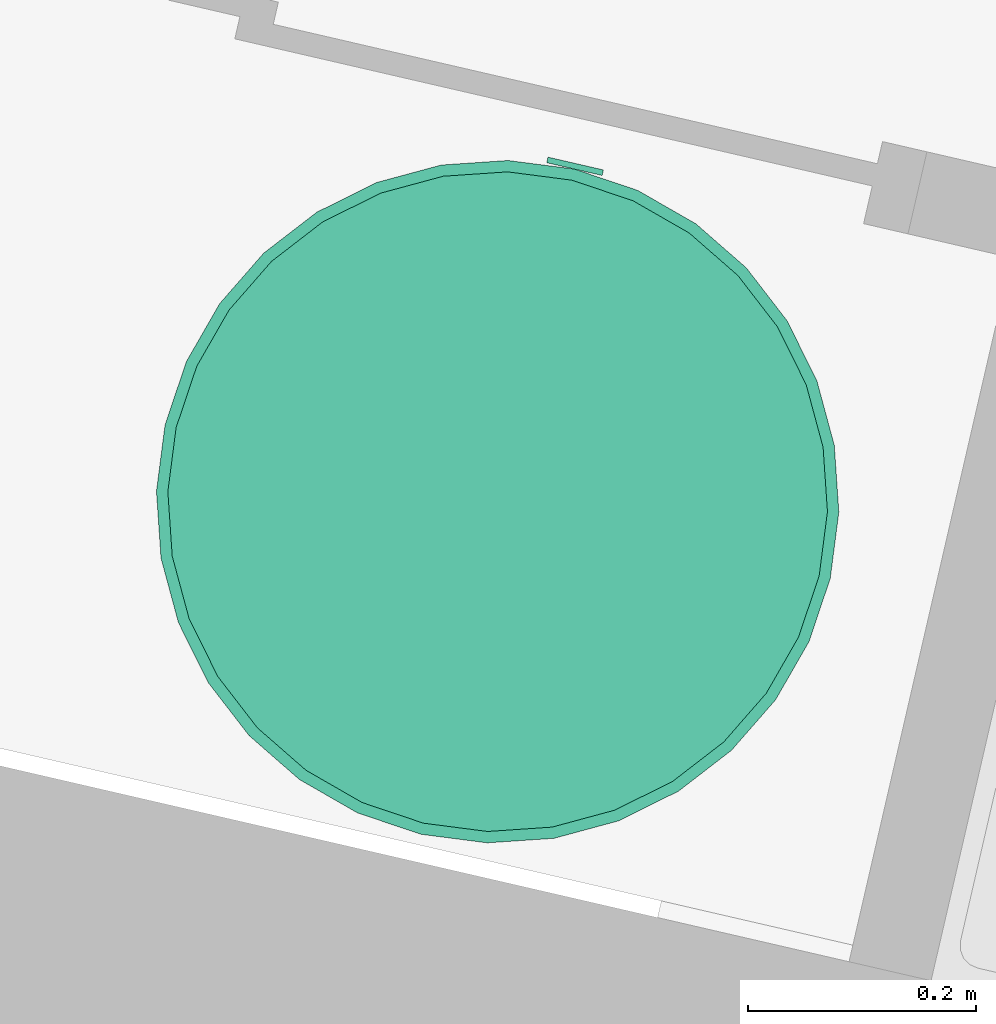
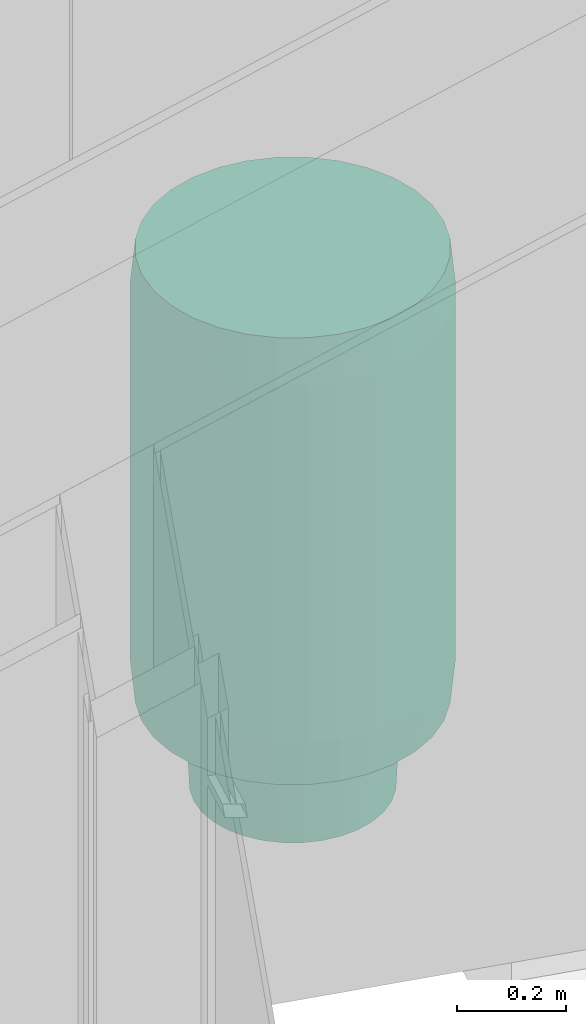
# One storey, part 98 of 119: 1 energy conversion device.
"""IFC2X3 building model written with IfcOpenShell, lengths in metres."""

from ifc_helpers import new_model, entity, si_unit, converted_unit, derived_unit, money_unit, direction, frame, origin_with_axes, place, context, subcontext, project, spatial, open_shell, faceted_brep, surface_model, source, transform, mapped, type_object, element, save


model = new_model("IFC2X3")

# Units and contexts
model_context = context("Model", 3, precision=1e-05, world=origin_with_axes(), true_north=direction((0.0, 1.0)))
body_context = subcontext(model_context, "Body", "Model", "MODEL_VIEW")
ifc_project = project(units=[si_unit("LENGTHUNIT", "METRE"), si_unit("AREAUNIT", "SQUARE_METRE"), si_unit("VOLUMEUNIT", "CUBIC_METRE"), converted_unit("PLANEANGLEUNIT", "DEGREE", entity("IfcPlaneAngleMeasure", 0.0174532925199), si_unit("PLANEANGLEUNIT", "RADIAN"), dimensions=[0, 0, 0, 0, 0, 0, 0]), si_unit("SOLIDANGLEUNIT", "STERADIAN"), money_unit("EUR"), converted_unit("TIMEUNIT", "Year", entity("IfcTimeMeasure", 31556926.0), si_unit("TIMEUNIT", "SECOND"), dimensions=[0, 0, 1, 0, 0, 0, 0]), si_unit("MASSUNIT", "GRAM", prefix="KILO"), si_unit("THERMODYNAMICTEMPERATUREUNIT", "DEGREE_CELSIUS"), si_unit("LUMINOUSINTENSITYUNIT", "LUMEN"), si_unit("ENERGYUNIT", "JOULE", prefix="MEGA"), derived_unit("THERMALCONDUCTANCEUNIT", [(si_unit("POWERUNIT", "WATT"), 1), (si_unit("LENGTHUNIT", "METRE"), -1), (si_unit("THERMODYNAMICTEMPERATUREUNIT", "KELVIN"), -1)]), derived_unit("SPECIFICHEATCAPACITYUNIT", [(si_unit("ENERGYUNIT", "JOULE"), 1), (si_unit("MASSUNIT", "GRAM", prefix="KILO"), -1), (si_unit("THERMODYNAMICTEMPERATUREUNIT", "KELVIN"), -1)]), derived_unit("MASSDENSITYUNIT", [(si_unit("MASSUNIT", "GRAM", prefix="KILO"), 1), (si_unit("VOLUMEUNIT", "CUBIC_METRE"), -1)])], contexts=[model_context])

# Site, building, storey
site_placement = place(None, origin_with_axes())
site = spatial("IfcSite", under=ifc_project, at=site_placement, Name="Site", CompositionType="ELEMENT")
building_placement = place(site_placement, origin_with_axes())
building = spatial("IfcBuilding", under=site, at=building_placement, Name="Bâtiment", CompositionType="ELEMENT")
storey_placement = place(building_placement, origin_with_axes())
storey = spatial("IfcBuildingStorey", under=building, at=storey_placement, Name="Rez-de-chaussée", CompositionType="ELEMENT", Elevation=0.0)

# Energy conversion device
heat_exchanger_type = type_object("IfcHeatExchangerType", Name="Chauffe-eau électrique 23", PredefinedType="SHELLANDTUBE")
shared_shape = source(origin_with_axes(), body_context, "Body", "SurfaceModel", [
    surface_model("IfcShellBasedSurfaceModel", [(-0.245, -0.0135, 0.2), (-0.245, -0.0135, 0.18), (-0.241505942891, -0.0130399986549, 0.18), (-0.241505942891, -0.0130399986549, 0.2), (-0.248494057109, -0.0130399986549, 0.2), (-0.248494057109, -0.0130399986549, 0.18), (-0.23825, -0.0116913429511, 0.18), (-0.23825, -0.0116913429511, 0.2), (-0.25175, -0.0116913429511, 0.2), (-0.25175, -0.0116913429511, 0.18), (-0.235454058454, -0.00954594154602, 0.18), (-0.235454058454, -0.00954594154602, 0.2), (-0.254545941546, -0.00954594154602, 0.2), (-0.254545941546, -0.00954594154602, 0.18), (-0.233308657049, -0.00675, 0.18), (-0.233308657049, -0.00675, 0.2), (-0.256691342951, -0.00675, 0.2), (-0.256691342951, -0.00675, 0.18), (-0.231960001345, -0.00349405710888, 0.18), (-0.231960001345, -0.00349405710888, 0.2), (-0.258039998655, -0.00349405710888, 0.2), (-0.258039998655, -0.00349405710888, 0.18), (-0.2315, 0.0, 0.18), (-0.2315, 0.0, 0.2), (-0.2585, 0.0, 0.2), (-0.2585, 0.0, 0.18), (-0.231960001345, 0.00349405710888, 0.18), (-0.231960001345, 0.00349405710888, 0.2), (-0.258039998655, 0.00349405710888, 0.2), (-0.258039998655, 0.00349405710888, 0.18), (-0.233308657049, 0.00675, 0.18), (-0.233308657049, 0.00675, 0.2), (-0.256691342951, 0.00675, 0.2), (-0.256691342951, 0.00675, 0.18), (-0.235454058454, 0.00954594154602, 0.18), (-0.235454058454, 0.00954594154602, 0.2), (-0.254545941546, 0.00954594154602, 0.2), (-0.254545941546, 0.00954594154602, 0.18), (-0.23825, 0.0116913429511, 0.18), (-0.23825, 0.0116913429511, 0.2), (-0.25175, 0.0116913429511, 0.2), (-0.25175, 0.0116913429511, 0.18), (-0.241505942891, 0.0130399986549, 0.18), (-0.241505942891, 0.0130399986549, 0.2), (-0.248494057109, 0.0130399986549, 0.2), (-0.248494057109, 0.0130399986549, 0.18), (-0.245, 0.0135, 0.18), (-0.245, 0.0135, 0.2)], [open_shell([[[0, 1, 2, 3]], [[4, 5, 1, 0]], [[3, 2, 6, 7]], [[8, 9, 5, 4]], [[7, 6, 10, 11]], [[12, 13, 9, 8]], [[11, 10, 14, 15]], [[16, 17, 13, 12]], [[15, 14, 18, 19]], [[20, 21, 17, 16]], [[19, 18, 22, 23]], [[24, 25, 21, 20]], [[23, 22, 26, 27]], [[28, 29, 25, 24]], [[27, 26, 30, 31]], [[32, 33, 29, 28]], [[31, 30, 34, 35]], [[36, 37, 33, 32]], [[35, 34, 38, 39]], [[40, 41, 37, 36]], [[39, 38, 42, 43]], [[44, 45, 41, 40]], [[43, 42, 46, 47]], [[47, 46, 45, 44]]])]),
    surface_model("IfcShellBasedSurfaceModel", [(0.245, -0.0135, 0.2), (0.245, -0.0135, 0.18), (0.248494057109, -0.0130399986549, 0.18), (0.248494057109, -0.0130399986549, 0.2), (0.241505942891, -0.0130399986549, 0.2), (0.241505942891, -0.0130399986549, 0.18), (0.25175, -0.0116913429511, 0.18), (0.25175, -0.0116913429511, 0.2), (0.23825, -0.0116913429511, 0.2), (0.23825, -0.0116913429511, 0.18), (0.254545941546, -0.00954594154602, 0.18), (0.254545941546, -0.00954594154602, 0.2), (0.235454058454, -0.00954594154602, 0.2), (0.235454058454, -0.00954594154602, 0.18), (0.256691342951, -0.00675, 0.18), (0.256691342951, -0.00675, 0.2), (0.233308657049, -0.00675, 0.2), (0.233308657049, -0.00675, 0.18), (0.258039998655, -0.00349405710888, 0.18), (0.258039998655, -0.00349405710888, 0.2), (0.231960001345, -0.00349405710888, 0.2), (0.231960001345, -0.00349405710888, 0.18), (0.2585, 0.0, 0.18), (0.2585, 0.0, 0.2), (0.2315, 0.0, 0.2), (0.2315, 0.0, 0.18), (0.258039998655, 0.00349405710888, 0.18), (0.258039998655, 0.00349405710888, 0.2), (0.231960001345, 0.00349405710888, 0.2), (0.231960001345, 0.00349405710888, 0.18), (0.256691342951, 0.00675, 0.18), (0.256691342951, 0.00675, 0.2), (0.233308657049, 0.00675, 0.2), (0.233308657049, 0.00675, 0.18), (0.254545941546, 0.00954594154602, 0.18), (0.254545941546, 0.00954594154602, 0.2), (0.235454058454, 0.00954594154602, 0.2), (0.235454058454, 0.00954594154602, 0.18), (0.25175, 0.0116913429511, 0.18), (0.25175, 0.0116913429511, 0.2), (0.23825, 0.0116913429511, 0.2), (0.23825, 0.0116913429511, 0.18), (0.248494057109, 0.0130399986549, 0.18), (0.248494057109, 0.0130399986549, 0.2), (0.241505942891, 0.0130399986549, 0.2), (0.241505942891, 0.0130399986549, 0.18), (0.245, 0.0135, 0.18), (0.245, 0.0135, 0.2)], [open_shell([[[0, 1, 2, 3]], [[4, 5, 1, 0]], [[3, 2, 6, 7]], [[8, 9, 5, 4]], [[7, 6, 10, 11]], [[12, 13, 9, 8]], [[11, 10, 14, 15]], [[16, 17, 13, 12]], [[15, 14, 18, 19]], [[20, 21, 17, 16]], [[19, 18, 22, 23]], [[24, 25, 21, 20]], [[23, 22, 26, 27]], [[28, 29, 25, 24]], [[27, 26, 30, 31]], [[32, 33, 29, 28]], [[31, 30, 34, 35]], [[36, 37, 33, 32]], [[35, 34, 38, 39]], [[40, 41, 37, 36]], [[39, 38, 42, 43]], [[44, 45, 41, 40]], [[43, 42, 46, 47]], [[47, 46, 45, 44]]])]),
    faceted_brep([(-0.025, -0.305, 0.4), (-0.025, -0.3, 0.4), (0.025, -0.3, 0.4), (0.025, -0.305, 0.4), (-0.025, -0.305, 0.42), (-0.025, -0.3, 0.42), (0.025, -0.3, 0.42), (0.025, -0.305, 0.42)], [[[0, 1, 2, 3]], [[0, 4, 5, 1]], [[1, 5, 6, 2]], [[2, 6, 7, 3]], [[3, 7, 4, 0]], [[7, 6, 5, 4]]]),
    faceted_brep([(0.0222836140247, -0.16, 0.088519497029), (0.02, -0.16, 0.1), (0.0222836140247, -0.16, 0.111480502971), (0.0287867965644, -0.16, 0.121213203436), (0.038519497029, -0.16, 0.127716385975), (0.05, -0.16, 0.13), (0.061480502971, -0.16, 0.127716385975), (0.0712132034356, -0.16, 0.121213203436), (0.0777163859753, -0.16, 0.111480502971), (0.08, -0.16, 0.1), (0.0777163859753, -0.16, 0.088519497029), (0.0712132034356, -0.16, 0.0787867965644), (0.061480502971, -0.16, 0.0722836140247), (0.05, -0.16, 0.07), (0.038519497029, -0.16, 0.0722836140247), (0.0287867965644, -0.16, 0.0787867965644), (0.0222836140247, -0.175, 0.088519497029), (0.02, -0.175, 0.1), (0.0222836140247, -0.175, 0.111480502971), (0.0287867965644, -0.175, 0.121213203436), (0.038519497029, -0.175, 0.127716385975), (0.05, -0.175, 0.13), (0.061480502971, -0.175, 0.127716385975), (0.0712132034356, -0.175, 0.121213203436), (0.0777163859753, -0.175, 0.111480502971), (0.08, -0.175, 0.1), (0.0777163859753, -0.175, 0.088519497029), (0.0712132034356, -0.175, 0.0787867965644), (0.061480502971, -0.175, 0.0722836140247), (0.05, -0.175, 0.07), (0.038519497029, -0.175, 0.0722836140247), (0.0287867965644, -0.175, 0.0787867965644)], [[[0, 1, 2, 3, 4, 5, 6, 7, 8, 9, 10, 11, 12, 13, 14, 15]], [[0, 16, 17, 1]], [[1, 17, 18, 2]], [[2, 18, 19, 3]], [[3, 19, 20, 4]], [[4, 20, 21, 5]], [[5, 21, 22, 6]], [[6, 22, 23, 7]], [[7, 23, 24, 8]], [[8, 24, 25, 9]], [[9, 25, 26, 10]], [[10, 26, 27, 11]], [[11, 27, 28, 12]], [[12, 28, 29, 13]], [[13, 29, 30, 14]], [[14, 30, 31, 15]], [[15, 31, 16, 0]], [[16, 31, 30, 29, 28, 27, 26, 25, 24, 23, 22, 21, 20, 19, 18, 17]]]),
    faceted_brep([(-0.0777163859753, -0.16, 0.088519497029), (-0.08, -0.16, 0.1), (-0.0777163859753, -0.16, 0.111480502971), (-0.0712132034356, -0.16, 0.121213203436), (-0.061480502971, -0.16, 0.127716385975), (-0.05, -0.16, 0.13), (-0.038519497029, -0.16, 0.127716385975), (-0.0287867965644, -0.16, 0.121213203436), (-0.0222836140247, -0.16, 0.111480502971), (-0.02, -0.16, 0.1), (-0.0222836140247, -0.16, 0.088519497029), (-0.0287867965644, -0.16, 0.0787867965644), (-0.038519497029, -0.16, 0.0722836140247), (-0.05, -0.16, 0.07), (-0.061480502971, -0.16, 0.0722836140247), (-0.0712132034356, -0.16, 0.0787867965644), (-0.0777163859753, -0.175, 0.088519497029), (-0.08, -0.175, 0.1), (-0.0777163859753, -0.175, 0.111480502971), (-0.0712132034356, -0.175, 0.121213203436), (-0.061480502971, -0.175, 0.127716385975), (-0.05, -0.175, 0.13), (-0.038519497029, -0.175, 0.127716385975), (-0.0287867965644, -0.175, 0.121213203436), (-0.0222836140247, -0.175, 0.111480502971), (-0.02, -0.175, 0.1), (-0.0222836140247, -0.175, 0.088519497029), (-0.0287867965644, -0.175, 0.0787867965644), (-0.038519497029, -0.175, 0.0722836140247), (-0.05, -0.175, 0.07), (-0.061480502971, -0.175, 0.0722836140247), (-0.0712132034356, -0.175, 0.0787867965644)], [[[0, 1, 2, 3, 4, 5, 6, 7, 8, 9, 10, 11, 12, 13, 14, 15]], [[0, 16, 17, 1]], [[1, 17, 18, 2]], [[2, 18, 19, 3]], [[3, 19, 20, 4]], [[4, 20, 21, 5]], [[5, 21, 22, 6]], [[6, 22, 23, 7]], [[7, 23, 24, 8]], [[8, 24, 25, 9]], [[9, 25, 26, 10]], [[10, 26, 27, 11]], [[11, 27, 28, 12]], [[12, 28, 29, 13]], [[13, 29, 30, 14]], [[14, 30, 31, 15]], [[15, 31, 16, 0]], [[16, 31, 30, 29, 28, 27, 26, 25, 24, 23, 22, 21, 20, 19, 18, 17]]]),
    faceted_brep([(-0.186349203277, -0.0370671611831, 0.0), (-0.196157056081, -0.0390180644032, 0.2), (-0.2, 0.0, 0.2), (-0.19, 0.0, 0.0), (-0.175537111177, -0.0727098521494, 0.0), (-0.184775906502, -0.076536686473, 0.2), (-0.166293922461, -0.111114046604, 0.2), (-0.141421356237, -0.141421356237, 0.2), (-0.118783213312, -0.16, 0.2), (0.118783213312, -0.16, 0.2), (0.141421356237, -0.141421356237, 0.2), (0.166293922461, -0.111114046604, 0.2), (0.184775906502, -0.076536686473, 0.2), (0.196157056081, -0.0390180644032, 0.2), (0.2, 0.0, 0.2), (0.196157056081, 0.0390180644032, 0.2), (0.184775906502, 0.076536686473, 0.2), (0.166293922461, 0.111114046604, 0.2), (0.141421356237, 0.141421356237, 0.2), (0.111114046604, 0.166293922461, 0.2), (0.076536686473, 0.184775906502, 0.2), (0.0390180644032, 0.196157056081, 0.2), (0.0, 0.2, 0.2), (-0.0390180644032, 0.196157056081, 0.2), (-0.076536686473, 0.184775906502, 0.2), (-0.111114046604, 0.166293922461, 0.2), (-0.141421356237, 0.141421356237, 0.2), (-0.166293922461, 0.111114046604, 0.2), (-0.184775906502, 0.076536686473, 0.2), (-0.196157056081, 0.0390180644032, 0.2), (-0.186349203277, 0.0370671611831, 0.0), (-0.175537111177, 0.0727098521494, 0.0), (-0.157979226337, 0.105558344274, 0.0), (-0.134350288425, 0.134350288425, 0.0), (-0.105558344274, 0.157979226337, 0.0), (-0.0727098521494, 0.175537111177, 0.0), (-0.0370671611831, 0.186349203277, 0.0), (0.0, 0.19, 0.0), (0.0370671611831, 0.186349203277, 0.0), (0.0727098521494, 0.175537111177, 0.0), (0.105558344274, 0.157979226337, 0.0), (0.134350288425, 0.134350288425, 0.0), (0.157979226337, 0.105558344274, 0.0), (0.175537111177, 0.0727098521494, 0.0), (0.186349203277, 0.0370671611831, 0.0), (0.19, 0.0, 0.0), (0.186349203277, -0.0370671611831, 0.0), (0.175537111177, -0.0727098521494, 0.0), (0.157979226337, -0.105558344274, 0.0), (0.134350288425, -0.134350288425, 0.0), (0.105558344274, -0.157979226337, 0.0), (0.101777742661, -0.16, 0.0), (-0.101777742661, -0.16, 0.0), (-0.105558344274, -0.157979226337, 0.0), (-0.134350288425, -0.134350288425, 0.0), (-0.157979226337, -0.105558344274, 0.0), (-0.106908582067, -0.16, 0.0486072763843), (0.106908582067, -0.16, 0.0486072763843)], [[[0, 1, 2, 3]], [[4, 5, 1, 0]], [[1, 5, 6, 7, 8, 9, 10, 11, 12, 13, 14, 15, 16, 17, 18, 19, 20, 21, 22, 23, 24, 25, 26, 27, 28, 29, 2]], [[3, 2, 29, 30]], [[0, 3, 30, 31, 32, 33, 34, 35, 36, 37, 38, 39, 40, 41, 42, 43, 44, 45, 46, 47, 48, 49, 50, 51, 52, 53, 54, 55, 4]], [[55, 6, 5, 4]], [[54, 7, 6, 55]], [[53, 56, 8, 7, 54]], [[51, 57, 9, 8, 56, 52]], [[49, 10, 9, 57, 50]], [[48, 11, 10, 49]], [[47, 12, 11, 48]], [[46, 13, 12, 47]], [[45, 14, 13, 46]], [[44, 15, 14, 45]], [[43, 16, 15, 44]], [[42, 17, 16, 43]], [[41, 18, 17, 42]], [[40, 19, 18, 41]], [[39, 20, 19, 40]], [[38, 21, 20, 39]], [[37, 22, 21, 38]], [[36, 23, 22, 37]], [[35, 24, 23, 36]], [[34, 25, 24, 35]], [[33, 26, 25, 34]], [[32, 27, 26, 33]], [[31, 28, 27, 32]], [[30, 29, 28, 31]], [[50, 57, 51]], [[52, 56, 53]]]),
    faceted_brep([(-0.284427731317, -0.0565761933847, 0.2), (-0.294235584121, -0.0585270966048, 0.3), (-0.3, 0.0, 0.3), (-0.29, 0.0, 0.2), (-0.267925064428, -0.110978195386, 0.2), (-0.277163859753, -0.11480502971, 0.3), (-0.249440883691, -0.166671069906, 0.3), (-0.212132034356, -0.212132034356, 0.3), (-0.166671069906, -0.249440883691, 0.3), (-0.11480502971, -0.277163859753, 0.3), (-0.0585270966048, -0.294235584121, 0.3), (0.0, -0.3, 0.3), (0.0585270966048, -0.294235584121, 0.3), (0.11480502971, -0.277163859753, 0.3), (0.166671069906, -0.249440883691, 0.3), (0.212132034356, -0.212132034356, 0.3), (0.249440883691, -0.166671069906, 0.3), (0.277163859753, -0.11480502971, 0.3), (0.294235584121, -0.0585270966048, 0.3), (0.3, 0.0, 0.3), (0.294235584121, 0.0585270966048, 0.3), (0.277163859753, 0.11480502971, 0.3), (0.249440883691, 0.166671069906, 0.3), (0.212132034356, 0.212132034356, 0.3), (0.166671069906, 0.249440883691, 0.3), (0.11480502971, 0.277163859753, 0.3), (0.0585270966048, 0.294235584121, 0.3), (0.0, 0.3, 0.3), (-0.0585270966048, 0.294235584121, 0.3), (-0.11480502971, 0.277163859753, 0.3), (-0.166671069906, 0.249440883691, 0.3), (-0.212132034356, 0.212132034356, 0.3), (-0.249440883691, 0.166671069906, 0.3), (-0.277163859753, 0.11480502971, 0.3), (-0.294235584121, 0.0585270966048, 0.3), (-0.284427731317, 0.0565761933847, 0.2), (-0.267925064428, 0.110978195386, 0.2), (-0.241126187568, 0.161115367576, 0.2), (-0.205060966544, 0.205060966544, 0.2), (-0.161115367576, 0.241126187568, 0.2), (-0.110978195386, 0.267925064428, 0.2), (-0.0565761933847, 0.284427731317, 0.2), (0.0, 0.29, 0.2), (0.0565761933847, 0.284427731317, 0.2), (0.110978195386, 0.267925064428, 0.2), (0.161115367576, 0.241126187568, 0.2), (0.205060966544, 0.205060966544, 0.2), (0.241126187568, 0.161115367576, 0.2), (0.267925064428, 0.110978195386, 0.2), (0.284427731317, 0.0565761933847, 0.2), (0.29, 0.0, 0.2), (0.284427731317, -0.0565761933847, 0.2), (0.267925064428, -0.110978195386, 0.2), (0.241126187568, -0.161115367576, 0.2), (0.205060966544, -0.205060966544, 0.2), (0.161115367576, -0.241126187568, 0.2), (0.110978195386, -0.267925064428, 0.2), (0.0565761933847, -0.284427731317, 0.2), (0.0, -0.29, 0.2), (-0.0565761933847, -0.284427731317, 0.2), (-0.110978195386, -0.267925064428, 0.2), (-0.161115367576, -0.241126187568, 0.2), (-0.205060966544, -0.205060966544, 0.2), (-0.241126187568, -0.161115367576, 0.2)], [[[0, 1, 2, 3]], [[4, 5, 1, 0]], [[1, 5, 6, 7, 8, 9, 10, 11, 12, 13, 14, 15, 16, 17, 18, 19, 20, 21, 22, 23, 24, 25, 26, 27, 28, 29, 30, 31, 32, 33, 34, 2]], [[3, 2, 34, 35]], [[0, 3, 35, 36, 37, 38, 39, 40, 41, 42, 43, 44, 45, 46, 47, 48, 49, 50, 51, 52, 53, 54, 55, 56, 57, 58, 59, 60, 61, 62, 63, 4]], [[63, 6, 5, 4]], [[62, 7, 6, 63]], [[61, 8, 7, 62]], [[60, 9, 8, 61]], [[59, 10, 9, 60]], [[58, 11, 10, 59]], [[57, 12, 11, 58]], [[56, 13, 12, 57]], [[55, 14, 13, 56]], [[54, 15, 14, 55]], [[53, 16, 15, 54]], [[52, 17, 16, 53]], [[51, 18, 17, 52]], [[50, 19, 18, 51]], [[49, 20, 19, 50]], [[48, 21, 20, 49]], [[47, 22, 21, 48]], [[46, 23, 22, 47]], [[45, 24, 23, 46]], [[44, 25, 24, 45]], [[43, 26, 25, 44]], [[42, 27, 26, 43]], [[41, 28, 27, 42]], [[40, 29, 28, 41]], [[39, 30, 29, 40]], [[38, 31, 30, 39]], [[37, 32, 31, 38]], [[36, 33, 32, 37]], [[35, 34, 33, 36]]]),
    faceted_brep([(-0.294235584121, -0.0585270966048, 0.3), (-0.3, 0.0, 0.3), (-0.294235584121, 0.0585270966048, 0.3), (-0.277163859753, 0.11480502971, 0.3), (-0.249440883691, 0.166671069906, 0.3), (-0.212132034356, 0.212132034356, 0.3), (-0.166671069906, 0.249440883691, 0.3), (-0.11480502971, 0.277163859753, 0.3), (-0.0585270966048, 0.294235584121, 0.3), (0.0, 0.3, 0.3), (0.0585270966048, 0.294235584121, 0.3), (0.11480502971, 0.277163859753, 0.3), (0.166671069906, 0.249440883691, 0.3), (0.212132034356, 0.212132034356, 0.3), (0.249440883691, 0.166671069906, 0.3), (0.277163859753, 0.11480502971, 0.3), (0.294235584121, 0.0585270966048, 0.3), (0.3, 0.0, 0.3), (0.294235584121, -0.0585270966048, 0.3), (0.277163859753, -0.11480502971, 0.3), (0.249440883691, -0.166671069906, 0.3), (0.212132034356, -0.212132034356, 0.3), (0.166671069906, -0.249440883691, 0.3), (0.11480502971, -0.277163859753, 0.3), (0.0585270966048, -0.294235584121, 0.3), (0.0, -0.3, 0.3), (-0.0585270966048, -0.294235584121, 0.3), (-0.11480502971, -0.277163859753, 0.3), (-0.166671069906, -0.249440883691, 0.3), (-0.212132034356, -0.212132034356, 0.3), (-0.249440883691, -0.166671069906, 0.3), (-0.277163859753, -0.11480502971, 0.3), (-0.294235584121, -0.0585270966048, 1.1), (-0.3, 0.0, 1.1), (-0.294235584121, 0.0585270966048, 1.1), (-0.277163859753, 0.11480502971, 1.1), (-0.249440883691, 0.166671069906, 1.1), (-0.212132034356, 0.212132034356, 1.1), (-0.166671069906, 0.249440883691, 1.1), (-0.11480502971, 0.277163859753, 1.1), (-0.0585270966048, 0.294235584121, 1.1), (0.0, 0.3, 1.1), (0.0585270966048, 0.294235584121, 1.1), (0.11480502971, 0.277163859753, 1.1), (0.166671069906, 0.249440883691, 1.1), (0.212132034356, 0.212132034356, 1.1), (0.249440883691, 0.166671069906, 1.1), (0.277163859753, 0.11480502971, 1.1), (0.294235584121, 0.0585270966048, 1.1), (0.3, 0.0, 1.1), (0.294235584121, -0.0585270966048, 1.1), (0.277163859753, -0.11480502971, 1.1), (0.249440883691, -0.166671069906, 1.1), (0.212132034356, -0.212132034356, 1.1), (0.166671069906, -0.249440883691, 1.1), (0.11480502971, -0.277163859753, 1.1), (0.0585270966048, -0.294235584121, 1.1), (0.0, -0.3, 1.1), (-0.0585270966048, -0.294235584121, 1.1), (-0.11480502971, -0.277163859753, 1.1), (-0.166671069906, -0.249440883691, 1.1), (-0.212132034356, -0.212132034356, 1.1), (-0.249440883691, -0.166671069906, 1.1), (-0.277163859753, -0.11480502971, 1.1)], [[[0, 1, 2, 3, 4, 5, 6, 7, 8, 9, 10, 11, 12, 13, 14, 15, 16, 17, 18, 19, 20, 21, 22, 23, 24, 25, 26, 27, 28, 29, 30, 31]], [[0, 32, 33, 1]], [[1, 33, 34, 2]], [[2, 34, 35, 3]], [[3, 35, 36, 4]], [[4, 36, 37, 5]], [[5, 37, 38, 6]], [[6, 38, 39, 7]], [[7, 39, 40, 8]], [[8, 40, 41, 9]], [[9, 41, 42, 10]], [[10, 42, 43, 11]], [[11, 43, 44, 12]], [[12, 44, 45, 13]], [[13, 45, 46, 14]], [[14, 46, 47, 15]], [[15, 47, 48, 16]], [[16, 48, 49, 17]], [[17, 49, 50, 18]], [[18, 50, 51, 19]], [[19, 51, 52, 20]], [[20, 52, 53, 21]], [[21, 53, 54, 22]], [[22, 54, 55, 23]], [[23, 55, 56, 24]], [[24, 56, 57, 25]], [[25, 57, 58, 26]], [[26, 58, 59, 27]], [[27, 59, 60, 28]], [[28, 60, 61, 29]], [[29, 61, 62, 30]], [[30, 62, 63, 31]], [[31, 63, 32, 0]], [[32, 63, 62, 61, 60, 59, 58, 57, 56, 55, 54, 53, 52, 51, 50, 49, 48, 47, 46, 45, 44, 43, 42, 41, 40, 39, 38, 37, 36, 35, 34, 33]]]),
    faceted_brep([(-0.294235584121, -0.0585270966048, 1.1), (-0.284427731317, -0.0565761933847, 1.2), (-0.29, 0.0, 1.2), (-0.3, 0.0, 1.1), (-0.277163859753, -0.11480502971, 1.1), (-0.267925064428, -0.110978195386, 1.2), (-0.241126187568, -0.161115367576, 1.2), (-0.205060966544, -0.205060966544, 1.2), (-0.161115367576, -0.241126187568, 1.2), (-0.110978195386, -0.267925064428, 1.2), (-0.0565761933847, -0.284427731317, 1.2), (0.0, -0.29, 1.2), (0.0565761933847, -0.284427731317, 1.2), (0.110978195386, -0.267925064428, 1.2), (0.161115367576, -0.241126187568, 1.2), (0.205060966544, -0.205060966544, 1.2), (0.241126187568, -0.161115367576, 1.2), (0.267925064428, -0.110978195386, 1.2), (0.284427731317, -0.0565761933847, 1.2), (0.29, 0.0, 1.2), (0.284427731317, 0.0565761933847, 1.2), (0.267925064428, 0.110978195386, 1.2), (0.241126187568, 0.161115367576, 1.2), (0.205060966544, 0.205060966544, 1.2), (0.161115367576, 0.241126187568, 1.2), (0.110978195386, 0.267925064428, 1.2), (0.0565761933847, 0.284427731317, 1.2), (0.0, 0.29, 1.2), (-0.0565761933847, 0.284427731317, 1.2), (-0.110978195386, 0.267925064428, 1.2), (-0.161115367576, 0.241126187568, 1.2), (-0.205060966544, 0.205060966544, 1.2), (-0.241126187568, 0.161115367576, 1.2), (-0.267925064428, 0.110978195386, 1.2), (-0.284427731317, 0.0565761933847, 1.2), (-0.294235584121, 0.0585270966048, 1.1), (-0.277163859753, 0.11480502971, 1.1), (-0.249440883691, 0.166671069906, 1.1), (-0.212132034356, 0.212132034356, 1.1), (-0.166671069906, 0.249440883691, 1.1), (-0.11480502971, 0.277163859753, 1.1), (-0.0585270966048, 0.294235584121, 1.1), (0.0, 0.3, 1.1), (0.0585270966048, 0.294235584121, 1.1), (0.11480502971, 0.277163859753, 1.1), (0.166671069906, 0.249440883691, 1.1), (0.212132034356, 0.212132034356, 1.1), (0.249440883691, 0.166671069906, 1.1), (0.277163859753, 0.11480502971, 1.1), (0.294235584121, 0.0585270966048, 1.1), (0.3, 0.0, 1.1), (0.294235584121, -0.0585270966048, 1.1), (0.277163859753, -0.11480502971, 1.1), (0.249440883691, -0.166671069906, 1.1), (0.212132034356, -0.212132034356, 1.1), (0.166671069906, -0.249440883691, 1.1), (0.11480502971, -0.277163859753, 1.1), (0.0585270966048, -0.294235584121, 1.1), (0.0, -0.3, 1.1), (-0.0585270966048, -0.294235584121, 1.1), (-0.11480502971, -0.277163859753, 1.1), (-0.166671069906, -0.249440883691, 1.1), (-0.212132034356, -0.212132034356, 1.1), (-0.249440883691, -0.166671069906, 1.1)], [[[0, 1, 2, 3]], [[4, 5, 1, 0]], [[1, 5, 6, 7, 8, 9, 10, 11, 12, 13, 14, 15, 16, 17, 18, 19, 20, 21, 22, 23, 24, 25, 26, 27, 28, 29, 30, 31, 32, 33, 34, 2]], [[3, 2, 34, 35]], [[0, 3, 35, 36, 37, 38, 39, 40, 41, 42, 43, 44, 45, 46, 47, 48, 49, 50, 51, 52, 53, 54, 55, 56, 57, 58, 59, 60, 61, 62, 63, 4]], [[63, 6, 5, 4]], [[62, 7, 6, 63]], [[61, 8, 7, 62]], [[60, 9, 8, 61]], [[59, 10, 9, 60]], [[58, 11, 10, 59]], [[57, 12, 11, 58]], [[56, 13, 12, 57]], [[55, 14, 13, 56]], [[54, 15, 14, 55]], [[53, 16, 15, 54]], [[52, 17, 16, 53]], [[51, 18, 17, 52]], [[50, 19, 18, 51]], [[49, 20, 19, 50]], [[48, 21, 20, 49]], [[47, 22, 21, 48]], [[46, 23, 22, 47]], [[45, 24, 23, 46]], [[44, 25, 24, 45]], [[43, 26, 25, 44]], [[42, 27, 26, 43]], [[41, 28, 27, 42]], [[40, 29, 28, 41]], [[39, 30, 29, 40]], [[38, 31, 30, 39]], [[37, 32, 31, 38]], [[36, 33, 32, 37]], [[35, 34, 33, 36]]]),
])
energy_conversion_device_placement = place(storey_placement, frame((-8.56325677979, -1.23925815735, 0.0), z_axis=(0.0, 0.0, 1.0), x_axis=(-0.97438734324, 0.224876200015, 0.0)))
element("IfcEnergyConversionDevice", 1, at=energy_conversion_device_placement, inside=storey, type_object=heat_exchanger_type, Name="MOB-002", context=body_context, shape_type="MappedRepresentation", body=[
    mapped(shared_shape, transform((0.0, 0.0, 0.0))),
])

save(model, "model.ifc")
